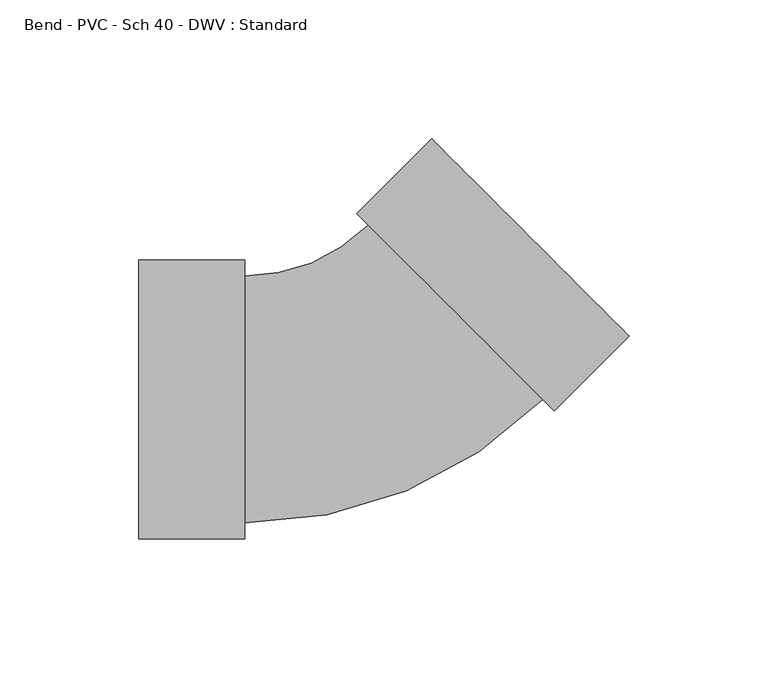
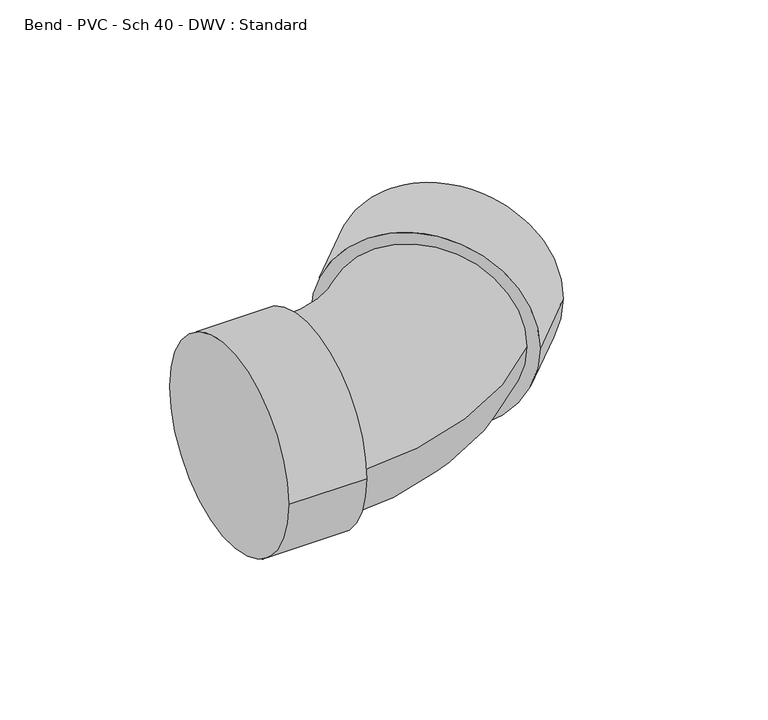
"""IFC4 building model written with IfcOpenShell, lengths in millimetres: pipe fitting geometry, Bend - PVC - Sch 40 - DWV : Standard."""

from ifc_helpers import new_model, si_unit, point, frame, origin, place, context, project, spatial, circle_curve, ellipse_curve, trimmed, source, transform, mapped, element, save
from ifc_brep_helpers import plane_surface, cylinder_surface, revolved_surface, advanced_brep


def bend_pvc_sch_40_dwv_standard_ffbada00(model_context):
    return source(origin(), model_context, "Body", "AdvancedBrep", [
        advanced_brep(
        [(-82.55, -50.2666, 0.0), (-82.55, 50.2666, 0.0), (-44.45, -50.2666, 0.0), (-44.45, 50.2666, 0.0), (-44.45, -44.45, 0.0), (-44.45, 44.45, 0.0), (0.0033857, 62.8617928, 0.0), (62.8617928, -0.0033857, 0.0), (66.9745285, -4.1165645, 0.0), (-4.1093501, 66.9749716, 0.0), (93.9167479, 22.8227528, 0.0), (22.8328693, 93.9142889, 0.0)],
        [
            (0, 1, circle_curve(frame((-82.55, 0.0, 0.0), z_axis=(-1.0, 0.0, 0.0), x_axis=(0.0, 1.0, 0.0)), 50.2666)),
            (1, 0, circle_curve(frame((-82.55, 0.0, 0.0), z_axis=(-1.0, 0.0, 0.0), x_axis=(0.0, 1.0, 0.0)), 50.2666)),
            (2, 3, circle_curve(frame((-44.45, 0.0, 0.0), z_axis=(1.0, 0.0, 0.0), x_axis=(0.0, 1.0, 0.0)), 50.2666)),
            (3, 2, circle_curve(frame((-44.45, 0.0, 0.0), z_axis=(1.0, 0.0, 0.0), x_axis=(0.0, 1.0, 0.0)), 50.2666)),
            (4, 5, circle_curve(frame((-44.45, 0.0, 0.0), z_axis=(-1.0, 0.0, 0.0), x_axis=(0.0, 1.0, 0.0)), 44.45)),
            (5, 4, circle_curve(frame((-44.45, 0.0, 0.0), z_axis=(-1.0, 0.0, 0.0), x_axis=(0.0, 1.0, 0.0)), 44.45)),
            (0, 2),
            (3, 1),
            (6, 5, circle_curve(frame((-44.45, 107.3199672, 0.0), z_axis=(0.0, 0.0, -1.0), x_axis=(0.0, -1.0, 0.0)), 62.8699672)),
            (4, 7, circle_curve(frame((-44.45, 107.3199672, 0.0), z_axis=(0.0, 0.0, 1.0), x_axis=(0.0, -1.0, 0.0)), 151.7699672)),
            (7, 6, circle_curve(frame((31.4325892, 31.4292035, 0.0), z_axis=(-0.7071448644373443, -0.7070686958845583, 0.0), x_axis=(-0.7070686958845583, 0.7071448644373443, 0.0)), 44.45)),
            (6, 7, circle_curve(frame((31.4325892, 31.4292035, 0.0), z_axis=(-0.7071448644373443, -0.7070686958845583, 0.0), x_axis=(-0.7070686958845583, 0.7071448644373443, 0.0)), 44.45)),
            (8, 9, circle_curve(frame((31.4325892, 31.4292035, 0.0), z_axis=(-0.7071448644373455, -0.7070686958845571, 0.0), x_axis=(-0.7070686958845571, 0.7071448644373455, 0.0)), 50.2666)),
            (9, 8, circle_curve(frame((31.4325892, 31.4292035, 0.0), z_axis=(-0.7071448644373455, -0.7070686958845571, 0.0), x_axis=(-0.7070686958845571, 0.7071448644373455, 0.0)), 50.2666)),
            (10, 11, circle_curve(frame((58.3748086, 58.3685208, 0.0), z_axis=(0.7071448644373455, 0.7070686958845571, 0.0), x_axis=(-0.7070686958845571, 0.7071448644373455, 0.0)), 50.2666)),
            (11, 10, circle_curve(frame((58.3748086, 58.3685208, 0.0), z_axis=(0.7071448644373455, 0.7070686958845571, 0.0), x_axis=(-0.7070686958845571, 0.7071448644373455, 0.0)), 50.2666)),
            (8, 10),
            (11, 9),
        ],
        [
            plane_surface(frame((-82.55, 0.0, 0.0), z_axis=(-1.0, 0.0, 0.0), x_axis=(0.0, 0.0, 1.0))),
            plane_surface(frame((-44.45, 0.0, 0.0), z_axis=(1.0, 0.0, 0.0), x_axis=(0.0, 0.0, 1.0))),
            cylinder_surface(frame((-82.55, 0.0, 0.0), z_axis=(-1.0, 0.0, 0.0), x_axis=(0.0, 1.0, 0.0)), 50.2666),
            revolved_surface(trimmed(ellipse_curve(frame((-44.45, 0.0, 0.0), z_axis=(-1.0, 0.0, 0.0), x_axis=(0.0, 1.0, 0.0)), 44.45, 44.45), [point((-44.45, -44.45, 0.0))], [point((-44.45, 44.45, 0.0))], True, "CARTESIAN"), (-44.45, 107.3199672, 0.0), (0.0, 0.0, 1.0)),
            revolved_surface(trimmed(ellipse_curve(frame((-44.45, 0.0, 0.0), z_axis=(-1.0, 0.0, 0.0), x_axis=(0.0, 1.0, 0.0)), 44.45, 44.45), [point((-44.45, 44.45, 0.0))], [point((-44.45, -44.45, 0.0))], True, "CARTESIAN"), (-44.45, 107.3199672, 0.0), (0.0, 0.0, 1.0)),
            plane_surface(frame((31.4325892, 31.4292035, 0.0), z_axis=(-0.7071448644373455, -0.7070686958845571, 0.0), x_axis=(0.0, 0.0, 1.0))),
            plane_surface(frame((58.3748086, 58.3685208, 0.0), z_axis=(0.7071448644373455, 0.7070686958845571, 0.0), x_axis=(0.0, 0.0, 1.0))),
            cylinder_surface(frame((31.4325892, 31.4292035, 0.0), z_axis=(-0.7071448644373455, -0.7070686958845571, 0.0), x_axis=(-0.7070686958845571, 0.7071448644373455, 0.0)), 50.2666),
        ],
        [
            (0, [[1, 2]]),
            (1, [[3, 4], [5, 6]]),
            (2, [[-1, 7, -4, 8]]),
            (2, [[-2, -8, -3, -7]]),
            (3, [[9, -5, 10, 11]]),
            (4, [[-9, 12, -10, -6]]),
            (5, [[13, 14], [-11, -12]]),
            (6, [[15, 16]]),
            (7, [[-13, 17, -16, 18]]),
            (7, [[-14, -18, -15, -17]]),
        ],
    ),
    ])


if __name__ == "__main__":
    model = new_model("IFC4")
    model_context = context("Model", 3, world=origin())
    ifc_project = project(units=[si_unit("LENGTHUNIT", "METRE", prefix="MILLI")], contexts=[model_context])
    site = spatial("IfcSite", under=ifc_project)
    building = spatial("IfcBuilding", under=site)
    placement = place(None, origin())
    bend_pvc_sch_40_dwv_standard_shape = bend_pvc_sch_40_dwv_standard_ffbada00(model_context)
    element("IfcPipeFitting", 1, ObjectType="Bend - PVC - Sch 40 - DWV : Standard", at=placement, inside=building, context=model_context, shape_type="MappedRepresentation", body=[
        mapped(bend_pvc_sch_40_dwv_standard_shape, transform((0.0, 0.0, 0.0), x_axis=(1.0, 0.0, 0.0), y_axis=(0.0, 1.0, 0.0), z_axis=(0.0, 0.0, 1.0))),
    ])
    save(model, "model.ifc")
